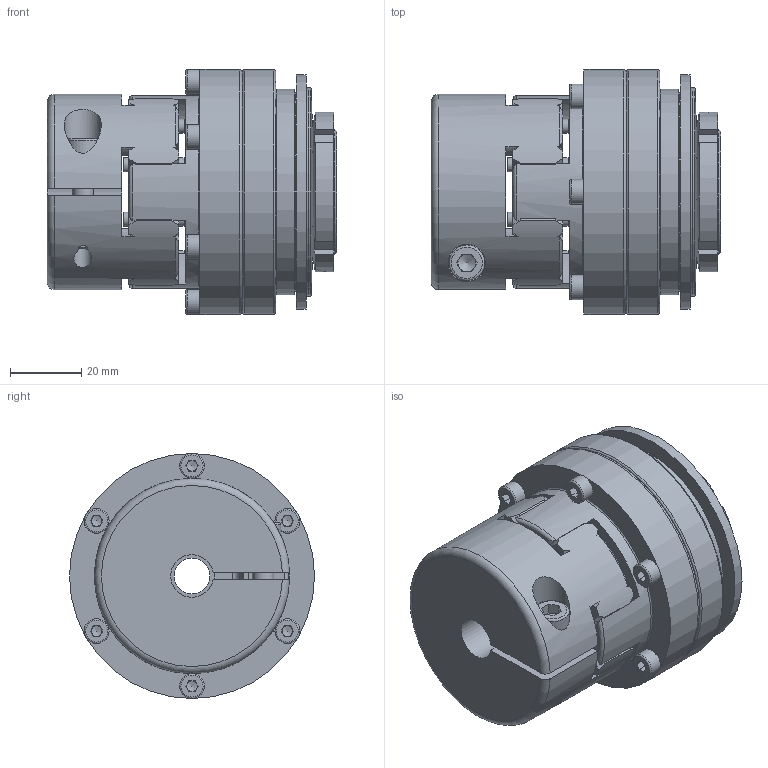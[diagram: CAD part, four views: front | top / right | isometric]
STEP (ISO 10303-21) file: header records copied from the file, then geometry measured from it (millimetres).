
FILE_DESCRIPTION( ( 'Unknown' ), '1' );
FILE_NAME( 'F:/JAKOB-STEP+IGES-Dateien/STEP-Dateien/SKW-EK/SKW-EK 30.stp', 'Unknown', ( 'Unknown' ), ( 'Unknown' ), 'PSStep 10.1', 'Unknown', ' ' );
FILE_SCHEMA( ( 'AUTOMOTIVE_DESIGN { 1 0 10303 214 1 1 1 1 }' ) );
Length unit declared in the file: millimetre
Products named in the file (1): SKW 30
Bounding box: 81.5 x 69 x 69 mm (x, y, z)
Volume: 183578.8 mm3; surface area: 57829.4 mm2
Topology: 1 solids, 9 shells, 674 faces, 1851 edges, 1194 vertices
Faces by surface type: plane 318, cylinder 144, cone 73, torus 66, extrusion 61, sphere 12
Full cylindrical faces by diameter (mm): 2 x2, 3.3 x8, 4 x14, 4.3 x6, 6 x1, 6.4 x1, 7 x6, 10 x2, 10.5 x1, 12.5 x1, 27 x2, 28.6 x1, 29.8 x1, 30 x2, 35 x3, 35.2 x1, 38.2 x2, 38.893 x1, 39.293 x1, 47.1 x3, 54.2 x1, 55 x3, 55.8 x2, 58 x1, 66 x1, 69 x2
Entity records: 28119 total; most frequent: CARTESIAN_POINT 6785, ORIENTED_EDGE 3274, DIRECTION 3114, EDGE_CURVE 1637, AXIS2_PLACEMENT_3D 1188, VERTEX_POINT 1117, EDGE_LOOP 887, FACE_OUTER_BOUND 756
